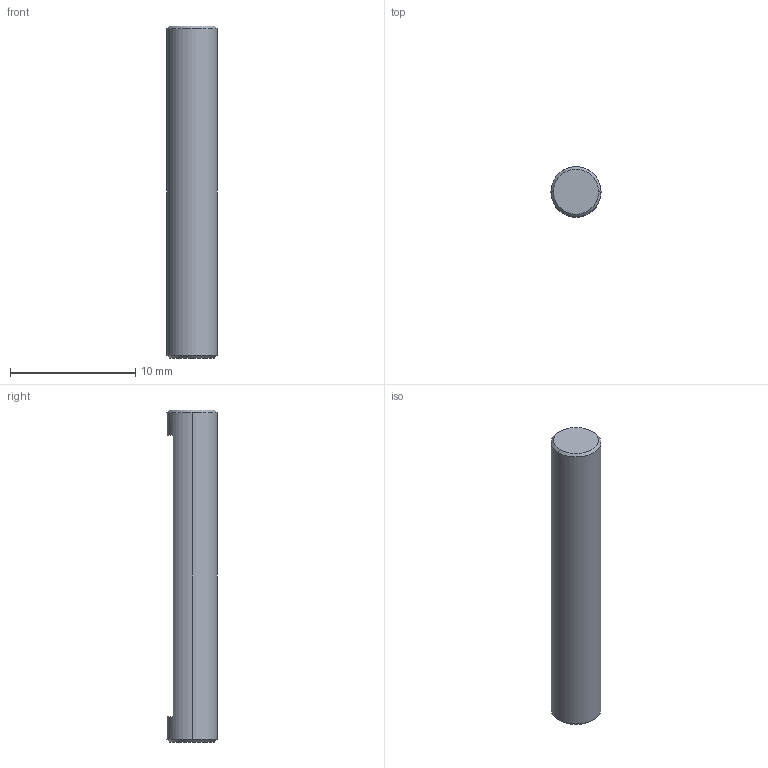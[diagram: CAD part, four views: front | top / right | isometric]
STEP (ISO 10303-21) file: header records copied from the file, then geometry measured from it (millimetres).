
FILE_DESCRIPTION (( 'STEP AP214' ), '1' );
FILE_NAME ('NTS307-B-HOLDER.STEP', '2025-01-09T06:16:21', ( '' ), ( '' ), 'SwSTEP 2.0', 'SolidWorks 2022', '' );
FILE_SCHEMA (( 'AUTOMOTIVE_DESIGN' ));
Length unit declared in the file: millimetre
Products named in the file (1): NTS307-B-HOLDER
Bounding box: 4 x 4 x 26.5 mm (x, y, z)
Volume: 312.1 mm3; surface area: 351.4 mm2
Topology: 1 solids, 1 shells, 11 faces, 20 edges, 12 vertices
Faces by surface type: plane 5, cone 4, cylinder 2
Entity records: 306 total; most frequent: DIRECTION 54, CARTESIAN_POINT 44, ORIENTED_EDGE 40, AXIS2_PLACEMENT_3D 22, EDGE_CURVE 20, EDGE_LOOP 12, VERTEX_POINT 12, ADVANCED_FACE 11
